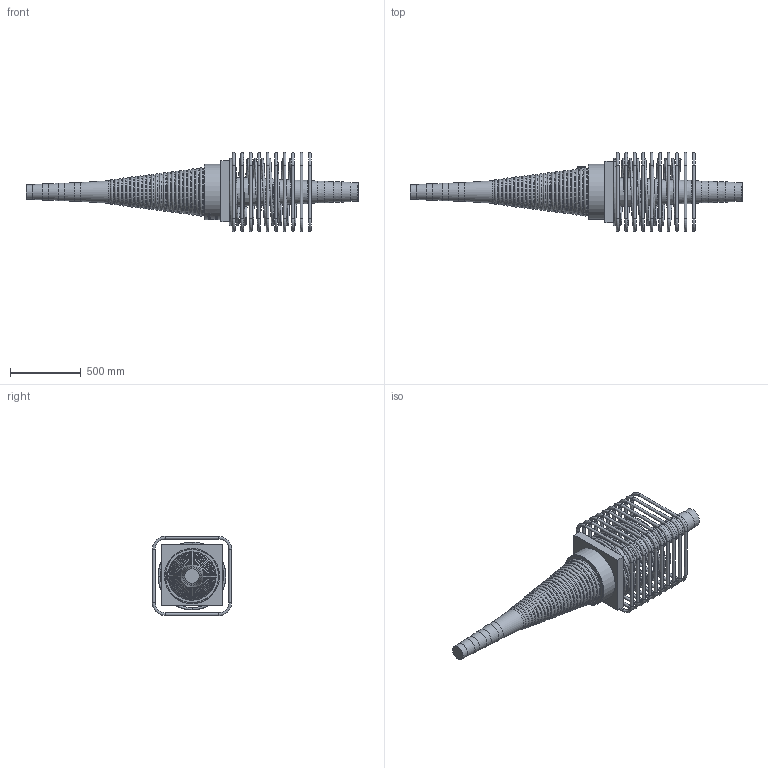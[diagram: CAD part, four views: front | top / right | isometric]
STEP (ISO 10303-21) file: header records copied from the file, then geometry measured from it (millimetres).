
FILE_DESCRIPTION(/* description */ (''),/* implementation_level */ '2;1');
FILE_NAME(/* name */ 'Z:\04 Publications\05 Give-out\BBR\6_3D_Models\BBR VT CONA CMI\BBR VT CONA CMI SP\03106\BBR VT CONA CMI SP 3106_Couler K Assembly_CS-34,28.stp',/* time_stamp */ '2017-05-09T10:16:31+02:00',/* author */ ('IP'),/* organization */ (''),/* preprocessor_version */ 'ST-DEVELOPER v16.1',/* originating_system */ 'Autodesk Inventor 2016',/* authorisation */ '');
FILE_SCHEMA (('AUTOMOTIVE_DESIGN { 1 0 10303 214 3 1 1 }'));
Products named in the file (1): BBR VT CONA CMI SP 3106_Couler K Assembly_CS-34,28
Bounding box: 2349.52 x 560 x 560 mm (x, y, z)
Volume: 98696271.8 mm3; surface area: 3856508.6 mm2
Topology: 12 solids, 12 shells, 942 faces, 2406 edges, 1534 vertices
Faces by surface type: bspline 407, plane 262, torus 124, cylinder 111, cone 30, sphere 8
Full cylindrical faces by diameter (mm): 20 x40, 34.089 x1, 57.089 x1, 104 x1, 114 x1, 124 x1, 134 x1, 375 x1, 390 x1
Entity records: 41923 total; most frequent: CARTESIAN_POINT 22026, ORIENTED_EDGE 4412, DIRECTION 2956, EDGE_CURVE 2203, VERTEX_POINT 1527, EDGE_LOOP 1209, AXIS2_PLACEMENT_3D 1033, FACE_OUTER_BOUND 942
